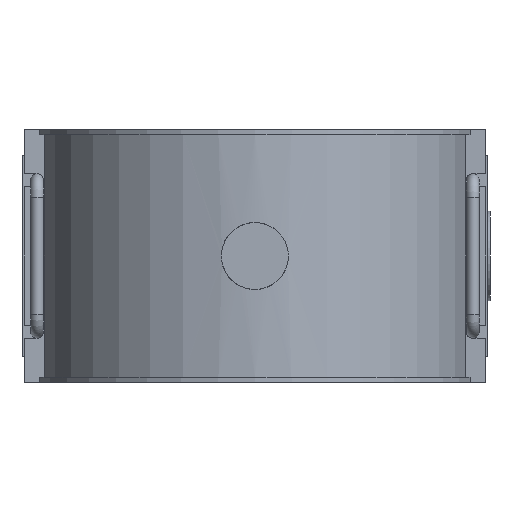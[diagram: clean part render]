
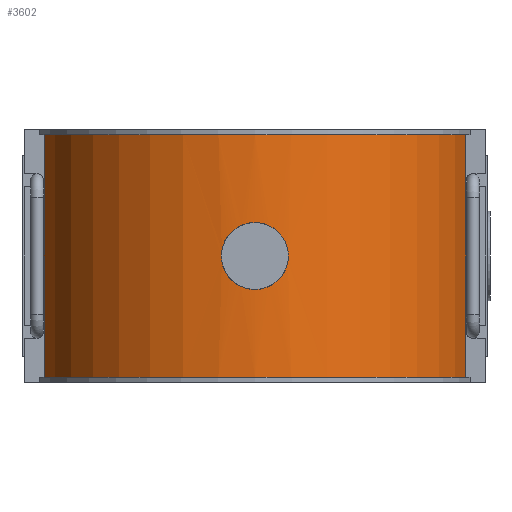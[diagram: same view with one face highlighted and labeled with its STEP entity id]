
A CAD part, front view. The second image highlights one B-rep face of the part: STEP entity #3602.
In plain terms, the highlighted cylindrical face has radius 100.8 mm (diameter 201.6 mm), a partial arc.
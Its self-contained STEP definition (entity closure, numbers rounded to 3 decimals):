
#57=FACE_BOUND('',#543,.T.);
#86=B_SPLINE_CURVE_WITH_KNOTS('',3,(#5762,#5763,#5764,#5765,#5766,#5767,
#5768,#5769,#5770,#5771,#5772,#5773,#5774,#5775,#5776,#5777,#5778,#5779,
#5780,#5781,#5782,#5783,#5784,#5785,#5786,#5787,#5788,#5789,#5790,#5791,
#5792,#5793,#5794,#5795),.UNSPECIFIED.,.F.,.F.,(4,2,2,2,2,2,2,2,2,2,2,2,
2,2,2,2,4),(0.,0.296,0.592,0.888,1.183,
1.479,1.775,2.071,2.367,2.663,
2.958,3.254,3.55,3.846,4.142,
4.438,4.733),.UNSPECIFIED.);
#87=B_SPLINE_CURVE_WITH_KNOTS('',3,(#5796,#5797,#5798,#5799,#5800,#5801,
#5802,#5803,#5804,#5805,#5806,#5807,#5808,#5809,#5810,#5811,#5812,#5813,
#5814,#5815,#5816,#5817,#5818,#5819,#5820,#5821,#5822,#5823,#5824,#5825,
#5826,#5827,#5828,#5829),.UNSPECIFIED.,.F.,.F.,(4,2,2,2,2,2,2,2,2,2,2,2,
2,2,2,2,4),(4.733,5.029,5.325,5.621,
5.917,6.213,6.508,6.804,7.1,
7.396,7.692,7.988,8.283,8.579,
8.875,9.171,9.467),.UNSPECIFIED.);
#335=FACE_OUTER_BOUND('',#542,.T.);
#542=EDGE_LOOP('',(#2828,#2829,#2830,#2831));
#543=EDGE_LOOP('',(#2832,#2833));
#749=CIRCLE('',#3884,100.8);
#761=CIRCLE('',#3905,100.8);
#929=LINE('',#6283,#1261);
#959=LINE('',#6447,#1291);
#1261=VECTOR('',#4495,10.);
#1291=VECTOR('',#4567,10.);
#1597=VERTEX_POINT('',#5759);
#1598=VERTEX_POINT('',#5761);
#1625=VERTEX_POINT('',#6215);
#1626=VERTEX_POINT('',#6217);
#1641=VERTEX_POINT('',#6282);
#1659=VERTEX_POINT('',#6352);
#1997=EDGE_CURVE('',#1598,#1597,#86,.T.);
#1998=EDGE_CURVE('',#1597,#1598,#87,.T.);
#2032=EDGE_CURVE('',#1625,#1626,#749,.T.);
#2050=EDGE_CURVE('',#1641,#1625,#929,.T.);
#2075=EDGE_CURVE('',#1659,#1641,#761,.T.);
#2099=EDGE_CURVE('',#1659,#1626,#959,.T.);
#2828=ORIENTED_EDGE('',*,*,#2032,.T.);
#2829=ORIENTED_EDGE('',*,*,#2099,.F.);
#2830=ORIENTED_EDGE('',*,*,#2075,.T.);
#2831=ORIENTED_EDGE('',*,*,#2050,.T.);
#2832=ORIENTED_EDGE('',*,*,#1997,.T.);
#2833=ORIENTED_EDGE('',*,*,#1998,.T.);
#3497=CYLINDRICAL_SURFACE('',#3913,100.8);
#3602=ADVANCED_FACE('',(#335,#57),#3497,.T.);
#3884=AXIS2_PLACEMENT_3D('',#6219,#4467,#4468);
#3905=AXIS2_PLACEMENT_3D('',#6353,#4536,#4537);
#3913=AXIS2_PLACEMENT_3D('',#6448,#4568,#4569);
#4467=DIRECTION('center_axis',(0.,0.,1.));
#4468=DIRECTION('ref_axis',(-1.,0.,0.));
#4495=DIRECTION('',(0.,0.,-1.));
#4536=DIRECTION('center_axis',(0.,0.,-1.));
#4537=DIRECTION('ref_axis',(-1.,0.,0.));
#4567=DIRECTION('',(0.,0.,-1.));
#4568=DIRECTION('center_axis',(0.,0.,1.));
#4569=DIRECTION('ref_axis',(-1.,0.,0.));
#5759=CARTESIAN_POINT('',(-15.68,-99.573,0.));
#5761=CARTESIAN_POINT('',(15.68,-99.573,0.));
#5762=CARTESIAN_POINT('Ctrl Pts',(15.68,-99.573,0.));
#5763=CARTESIAN_POINT('Ctrl Pts',(15.68,-99.573,-0.986));
#5764=CARTESIAN_POINT('Ctrl Pts',(15.585,-99.588,-2.005));
#5765=CARTESIAN_POINT('Ctrl Pts',(15.188,-99.649,-4.032));
#5766=CARTESIAN_POINT('Ctrl Pts',(14.885,-99.696,-5.039));
#5767=CARTESIAN_POINT('Ctrl Pts',(14.084,-99.812,-6.97));
#5768=CARTESIAN_POINT('Ctrl Pts',(13.586,-99.882,-7.896));
#5769=CARTESIAN_POINT('Ctrl Pts',(12.435,-100.032,-9.607));
#5770=CARTESIAN_POINT('Ctrl Pts',(11.783,-100.111,-10.392));
#5771=CARTESIAN_POINT('Ctrl Pts',(10.392,-100.265,-11.783));
#5772=CARTESIAN_POINT('Ctrl Pts',(9.607,-100.345,-12.435));
#5773=CARTESIAN_POINT('Ctrl Pts',(7.896,-100.494,-13.586));
#5774=CARTESIAN_POINT('Ctrl Pts',(6.97,-100.563,-14.084));
#5775=CARTESIAN_POINT('Ctrl Pts',(5.039,-100.679,-14.885));
#5776=CARTESIAN_POINT('Ctrl Pts',(4.032,-100.724,-15.188));
#5777=CARTESIAN_POINT('Ctrl Pts',(2.005,-100.785,-15.585));
#5778=CARTESIAN_POINT('Ctrl Pts',(0.986,-100.8,-15.68));
#5779=CARTESIAN_POINT('Ctrl Pts',(-0.986,-100.8,-15.68));
#5780=CARTESIAN_POINT('Ctrl Pts',(-2.005,-100.785,-15.585));
#5781=CARTESIAN_POINT('Ctrl Pts',(-4.032,-100.724,-15.188));
#5782=CARTESIAN_POINT('Ctrl Pts',(-5.039,-100.679,-14.885));
#5783=CARTESIAN_POINT('Ctrl Pts',(-6.97,-100.563,-14.084));
#5784=CARTESIAN_POINT('Ctrl Pts',(-7.896,-100.494,-13.586));
#5785=CARTESIAN_POINT('Ctrl Pts',(-9.607,-100.345,-12.435));
#5786=CARTESIAN_POINT('Ctrl Pts',(-10.392,-100.265,-11.783));
#5787=CARTESIAN_POINT('Ctrl Pts',(-11.783,-100.111,-10.392));
#5788=CARTESIAN_POINT('Ctrl Pts',(-12.435,-100.032,-9.607));
#5789=CARTESIAN_POINT('Ctrl Pts',(-13.586,-99.882,-7.896));
#5790=CARTESIAN_POINT('Ctrl Pts',(-14.084,-99.812,-6.97));
#5791=CARTESIAN_POINT('Ctrl Pts',(-14.885,-99.696,-5.039));
#5792=CARTESIAN_POINT('Ctrl Pts',(-15.188,-99.649,-4.032));
#5793=CARTESIAN_POINT('Ctrl Pts',(-15.585,-99.588,-2.005));
#5794=CARTESIAN_POINT('Ctrl Pts',(-15.68,-99.573,-0.986));
#5795=CARTESIAN_POINT('Ctrl Pts',(-15.68,-99.573,0.));
#5796=CARTESIAN_POINT('Ctrl Pts',(-15.68,-99.573,0.));
#5797=CARTESIAN_POINT('Ctrl Pts',(-15.68,-99.573,0.986));
#5798=CARTESIAN_POINT('Ctrl Pts',(-15.585,-99.588,2.005));
#5799=CARTESIAN_POINT('Ctrl Pts',(-15.188,-99.649,4.032));
#5800=CARTESIAN_POINT('Ctrl Pts',(-14.885,-99.696,5.039));
#5801=CARTESIAN_POINT('Ctrl Pts',(-14.084,-99.812,6.97));
#5802=CARTESIAN_POINT('Ctrl Pts',(-13.586,-99.882,7.896));
#5803=CARTESIAN_POINT('Ctrl Pts',(-12.435,-100.032,9.607));
#5804=CARTESIAN_POINT('Ctrl Pts',(-11.783,-100.111,10.392));
#5805=CARTESIAN_POINT('Ctrl Pts',(-10.392,-100.265,11.783));
#5806=CARTESIAN_POINT('Ctrl Pts',(-9.607,-100.345,12.435));
#5807=CARTESIAN_POINT('Ctrl Pts',(-7.896,-100.494,13.586));
#5808=CARTESIAN_POINT('Ctrl Pts',(-6.97,-100.563,14.084));
#5809=CARTESIAN_POINT('Ctrl Pts',(-5.039,-100.679,14.885));
#5810=CARTESIAN_POINT('Ctrl Pts',(-4.032,-100.724,15.188));
#5811=CARTESIAN_POINT('Ctrl Pts',(-2.005,-100.785,15.585));
#5812=CARTESIAN_POINT('Ctrl Pts',(-0.986,-100.8,15.68));
#5813=CARTESIAN_POINT('Ctrl Pts',(0.986,-100.8,15.68));
#5814=CARTESIAN_POINT('Ctrl Pts',(2.005,-100.785,15.585));
#5815=CARTESIAN_POINT('Ctrl Pts',(4.032,-100.724,15.188));
#5816=CARTESIAN_POINT('Ctrl Pts',(5.039,-100.679,14.885));
#5817=CARTESIAN_POINT('Ctrl Pts',(6.97,-100.563,14.084));
#5818=CARTESIAN_POINT('Ctrl Pts',(7.896,-100.494,13.586));
#5819=CARTESIAN_POINT('Ctrl Pts',(9.607,-100.345,12.435));
#5820=CARTESIAN_POINT('Ctrl Pts',(10.392,-100.265,11.783));
#5821=CARTESIAN_POINT('Ctrl Pts',(11.783,-100.111,10.392));
#5822=CARTESIAN_POINT('Ctrl Pts',(12.435,-100.032,9.607));
#5823=CARTESIAN_POINT('Ctrl Pts',(13.586,-99.882,7.896));
#5824=CARTESIAN_POINT('Ctrl Pts',(14.084,-99.812,6.97));
#5825=CARTESIAN_POINT('Ctrl Pts',(14.885,-99.696,5.039));
#5826=CARTESIAN_POINT('Ctrl Pts',(15.188,-99.649,4.032));
#5827=CARTESIAN_POINT('Ctrl Pts',(15.585,-99.588,2.005));
#5828=CARTESIAN_POINT('Ctrl Pts',(15.68,-99.573,0.986));
#5829=CARTESIAN_POINT('Ctrl Pts',(15.68,-99.573,0.));
#6215=CARTESIAN_POINT('',(-98.588,-21.,-56.693));
#6217=CARTESIAN_POINT('',(98.588,-21.,-56.693));
#6219=CARTESIAN_POINT('Origin',(0.,0.,-56.693));
#6282=CARTESIAN_POINT('',(-98.588,-21.,56.693));
#6283=CARTESIAN_POINT('',(-98.588,-21.,0.));
#6352=CARTESIAN_POINT('',(98.588,-21.,56.693));
#6353=CARTESIAN_POINT('Origin',(0.,0.,56.693));
#6447=CARTESIAN_POINT('',(98.588,-21.,0.));
#6448=CARTESIAN_POINT('Origin',(0.,0.,0.));
